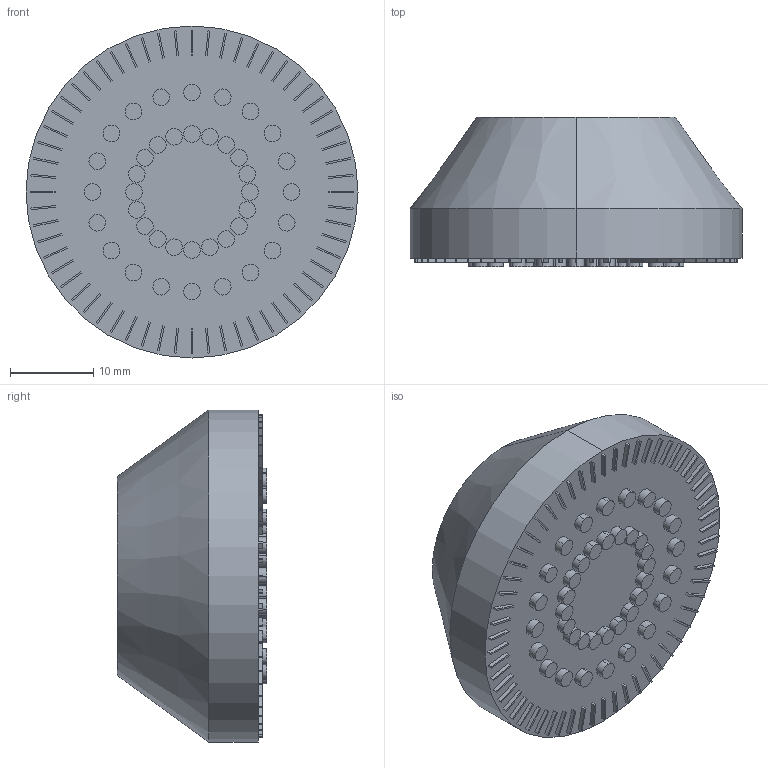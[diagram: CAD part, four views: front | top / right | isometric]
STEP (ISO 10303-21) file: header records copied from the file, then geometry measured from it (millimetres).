
FILE_DESCRIPTION (( 'STEP AP203' ), '1' );
FILE_NAME ('CP-FM40.STEP', '2018-03-16T12:30:16', ( '' ), ( '' ), 'SwSTEP 2.0', 'SolidWorks 2013', '' );
FILE_SCHEMA (( 'CONFIG_CONTROL_DESIGN' ));
Length unit declared in the file: millimetre
Products named in the file (1): CP-FM40
Bounding box: 40 x 18 x 40 mm (x, y, z)
Volume: 15792.5 mm3; surface area: 4514.2 mm2
Topology: 1 solids, 1 shells, 428 faces, 979 edges, 652 vertices
Faces by surface type: plane 342, cylinder 82, sphere 2, cone 2
Entity records: 11997 total; most frequent: CARTESIAN_POINT 2052, DIRECTION 2002, ORIENTED_EDGE 1948, EDGE_CURVE 974, VECTOR 804, LINE 804, VERTEX_POINT 649, AXIS2_PLACEMENT_3D 599
